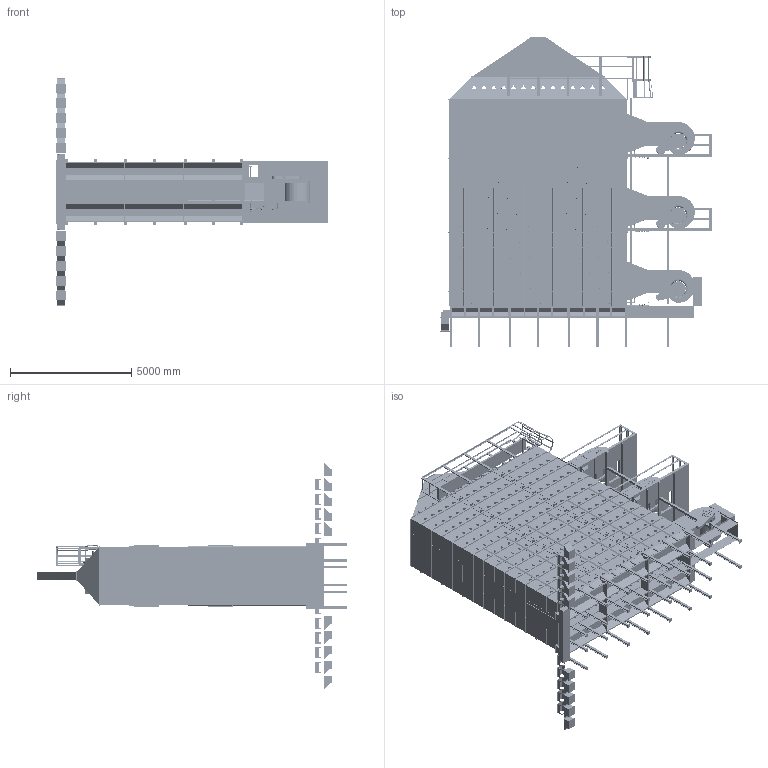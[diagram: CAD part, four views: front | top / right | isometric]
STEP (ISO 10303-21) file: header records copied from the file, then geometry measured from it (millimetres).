
FILE_DESCRIPTION(/* description */ ('PLAN AND ELEVATION VIEW FOR D24240 WITH ROOF & GRAVITY FILL'),/* implementation_level */ '2;1');
FILE_NAME(/* name */ 'C:\Engineering\Designs\Sales\Dryer\Workspaces\D24 All\D24240GF.stp',/* time_stamp */ '2025-01-07T09:42:55-06:00',/* author */ ('max.fleming'),/* organization */ (''),/* preprocessor_version */ 'ST-DEVELOPER v18.1',/* originating_system */ 'Autodesk Inventor 2022',/* authorisation */ '');
FILE_SCHEMA (('AUTOMOTIVE_DESIGN { 1 0 10303 214 3 1 1 }'));
Products named in the file (38): D24240GF; 24FT CATWALK; 24FT FRAME; 8FT MID FRAME; 8FT LHRH FRAME; 24FT Grav Assy; 24FT ROOF GF; 8FTRoof GF MID; 8FTRoof GF LHRH; Tongue; Platform Support 1-T; 24FT BODY TIER; LH Body; MID Body; RH Body; LH Body_MIR2; MID Body_MIR1; RH Body_MIR2; Outside Splice; Trans & Blower; Screen Guard; Belt Shield; LP Fuel; Standard Size End Plenum Panels; Ladder 2' section; Platform; Stiffeners; 1 Tier Vertical Support; LP Inlet; 2401002; LP Middle Connection; F048484; F048470; F1715410; Liquid Propane Pipe; 8'' CROSS AUGER; 12'' CROSS DRAG; Leg Kit 24 24T 4'
Assembly tree (208 placements, depth 3):
  D24240GF
    24FT CATWALK
    24FT FRAME
      8FT LHRH FRAME  x2
      8FT MID FRAME
    24FT Grav Assy
    24FT ROOF GF
      8FTRoof GF LHRH  x2
      8FTRoof GF MID
    Tongue
    Platform Support 1-T
    24FT BODY TIER  x14
      LH Body
      MID Body
      RH Body
      LH Body_MIR2
      MID Body_MIR1
      RH Body_MIR2
      Outside Splice
    Trans & Blower  x3
    Screen Guard  x6
    Belt Shield  x3
    LP Fuel  x3
    Standard Size End Plenum Panels  x25
    Platform  x2
    Stiffeners  x96
    1 Tier Vertical Support  x18
    LP Inlet
    2401002
    LP Middle Connection
      F048484
      F048470
      F1715410
    Liquid Propane Pipe  x10
  Ladder 2' section
  8'' CROSS AUGER
  12'' CROSS DRAG
  Leg Kit 24 24T 4'
Bounding box: 11201.4 x 12788.28 x 9423.4 mm (x, y, z)
Volume: 109951603736.1 mm3; surface area: 1531278926.1 mm2
Topology: 804 solids, 1040 shells, 58443 faces, 151200 edges, 96751 vertices
Faces by surface type: plane 27997, cylinder 17146, bspline 5616, cone 5029, torus 2384, sphere 271
Full cylindrical faces by diameter (mm): 1 x15, 1.651 x9, 1.753 x9, 1.778 x18, 2.019 x6, 2.108 x3, 2.286 x36, 2.489 x3, 2.54 x6, 3.091 x432, 3.175 x7, 3.251 x30, 3.306 x432, 3.522 x3, 3.658 x42, 3.8 x24, 4 x576, 4.039 x30, 4.166 x384, 4.191 x6, 4.229 x3, 4.267 x3, 4.369 x12, 4.445 x12, 4.701 x888, 4.762 x24, 4.851 x12, 4.928 x48, 5.283 x3, 5.527 x30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
Entity records: 784003 total; most frequent: CARTESIAN_POINT 343545, ORIENTED_EDGE 91834, DIRECTION 82615, EDGE_CURVE 46057, VERTEX_POINT 29484, AXIS2_PLACEMENT_3D 28279, LINE 26057, VECTOR 26057
